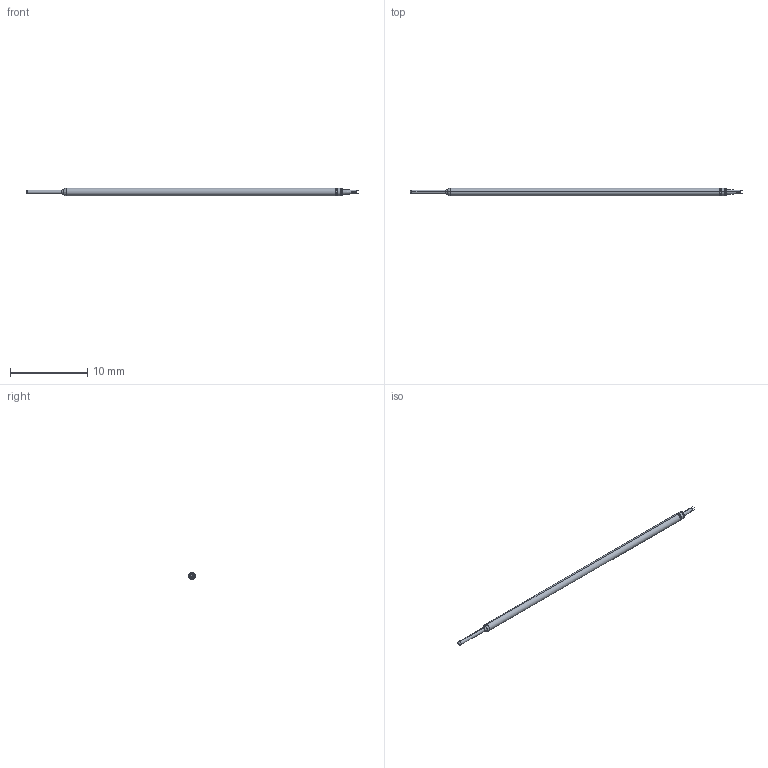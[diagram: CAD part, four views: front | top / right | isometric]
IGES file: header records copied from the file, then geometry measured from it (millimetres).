
Start section: SolidWorks IGES file using analytic representation for surfaces
Global section: file name: C:\Documents and Settings\mrumschlag\Desktop\changes\new\test\L18 FULL.IGS; native system: SolidWorks 2011; preprocessor: SolidWorks 2011; author: mrumschlag; date: 110630.142312; units: inch
Bounding box: 42.93 x 0.97 x 0.97 mm (x, y, z)
Surface area: 121 mm2 (no closed solid volume)
Topology: 0 solids, 0 shells, 31 faces, 178 edges, 176 vertices
Faces by surface type: bspline 17, revolution 14
